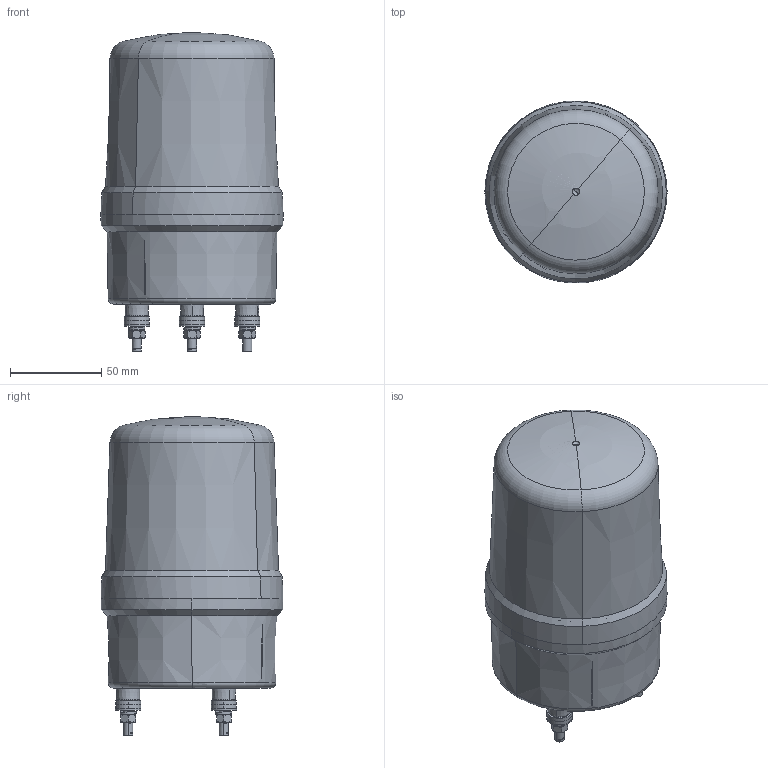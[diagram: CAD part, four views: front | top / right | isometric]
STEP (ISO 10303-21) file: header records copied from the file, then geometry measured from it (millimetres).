
FILE_DESCRIPTION((''),'2;1');
FILE_NAME('TWRW-10_ASM','2016-06-17T',('Administrator'),(''),'PRO/ENGINEER BY PARAMETRIC TECHNOLOGY CORPORATION, 2012360','PRO/ENGINEER BY PARAMETRIC TECHNOLOGY CORPORATION, 2012360','');
FILE_SCHEMA(('CONFIG_CONTROL_DESIGN'));
Length unit declared in the file: millimetre
Products named in the file (3): BREP_WITH_VOIDS_91531; PRT0002_1_ASM; TWRW-10_ASM
Assembly tree (2 placements, depth 3):
  TWRW-10_ASM
    PRT0002_1_ASM
      BREP_WITH_VOIDS_91531
Bounding box: 100 x 99.83 x 174.99 mm (x, y, z)
Volume: 563577.4 mm3; surface area: 160440.6 mm2
Topology: 1 solids, 46 shells, 1834 faces, 5612 edges, 3873 vertices
Faces by surface type: cylinder 554, plane 545, bspline 376, cone 222, torus 76, extrusion 45, sphere 16
Entity records: 97784 total; most frequent: CARTESIAN_POINT 52911, ORIENTED_EDGE 11128, DIRECTION 6830, EDGE_CURVE 5564, VERTEX_POINT 3857, B_SPLINE_CURVE_WITH_KNOTS 2794, AXIS2_PLACEMENT_3D 2551, EDGE_LOOP 1915
